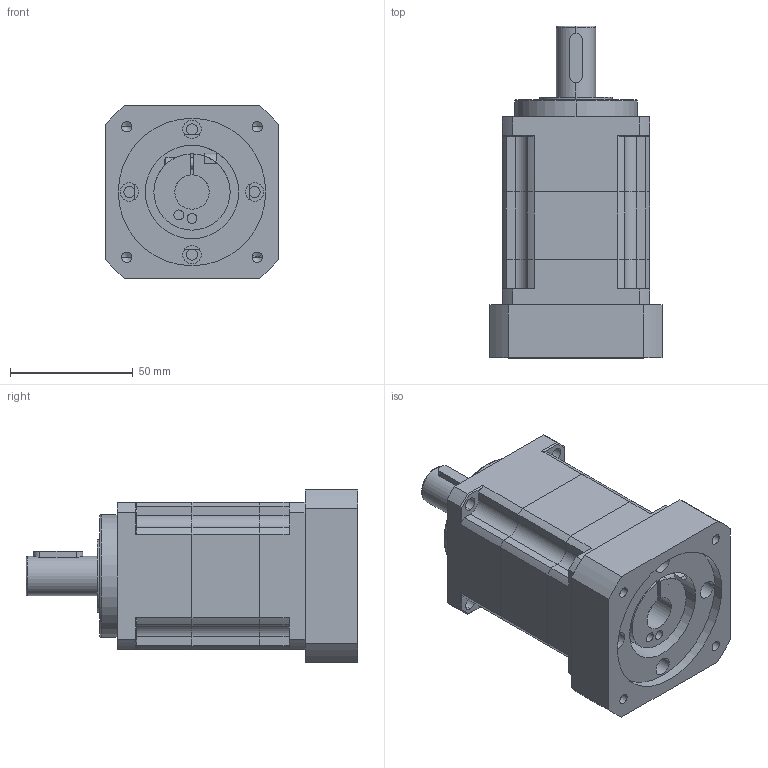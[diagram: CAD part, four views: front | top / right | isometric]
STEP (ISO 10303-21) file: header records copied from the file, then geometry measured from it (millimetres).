
FILE_DESCRIPTION (( 'STEP AP203' ), '1' );
FILE_NAME ('PX60-L2.STEP', '2023-09-14T10:09:02', ( '微软用户' ), ( '微软中国' ), 'SwSTEP 2.0', 'SolidWorks 2018', '' );
FILE_SCHEMA (( 'CONFIG_CONTROL_DESIGN' ));
Length unit declared in the file: millimetre
Products named in the file (7): PX60-L2; PB60俋倛芞奻裔啣_72T; PB60外形图下盖板-分体-14; 邧埴瑩 5x5x20; PB60外形图二级齿圈_72T; 囀鞠褒蹟佪-M5℅16; PX60-LJ 60-M5-75-LR32
Assembly tree (6 placements, depth 2):
  PX60-L2
    PB60俋倛芞奻裔啣_72T
    PB60外形图下盖板-分体-14
    邧埴瑩 5x5x20
    PB60外形图二级齿圈_72T
    囀鞠褒蹟佪-M5℅16
    PX60-LJ 60-M5-75-LR32
Bounding box: 70 x 135 x 70 mm (x, y, z)
Volume: 339734.5 mm3; surface area: 66210.8 mm2
Topology: 6 solids, 6 shells, 317 faces, 793 edges, 504 vertices
Faces by surface type: cylinder 162, plane 119, cone 28, torus 8
Entity records: 10418 total; most frequent: CARTESIAN_POINT 1869, DIRECTION 1747, ORIENTED_EDGE 1550, EDGE_CURVE 775, AXIS2_PLACEMENT_3D 674, VERTEX_POINT 504, LINE 399, VECTOR 399
